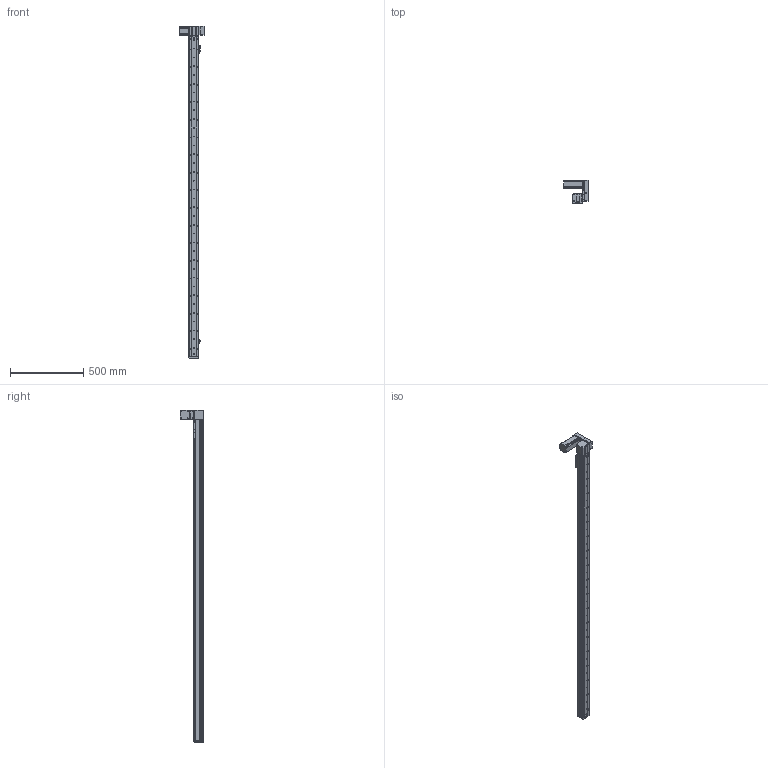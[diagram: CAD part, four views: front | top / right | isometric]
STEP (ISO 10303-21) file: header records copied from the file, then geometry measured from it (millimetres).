
FILE_DESCRIPTION (( 'STEP AP214' ), '1' );
FILE_NAME ('KSD68BS-S2000-MLU-CM.STEP', '2019-10-19T09:35:27', ( '微软用户' ), ( '微软中国' ), 'SwSTEP 2.0', 'SolidWorks 2014', '' );
FILE_SCHEMA (( 'AUTOMOTIVE_DESIGN' ));
Length unit declared in the file: millimetre
Products named in the file (11): 68单导轨同步带半封闭端板; KSD68BS 2000俴最裔啣圉猾敕; 覜茼え68遵圉猾敕; KSD68BS半封闭同步带传动导轨座; U倰嫖萇EEㄜSX672; 台达ECMA－C20604AS伺服电机（400W); KSD68BS 2000俴最菁啣圉猾敕; KSD68BS-S2000-MLU-CM; 悵誘欶奻狟殏; 68宽马达安装板连板上折同步带; 68宽单导轨半封闭同步带主动轮座左
Assembly tree (12 placements, depth 2):
  KSD68BS-S2000-MLU-CM
    KSD68BS 2000俴最菁啣圉猾敕
    台达ECMA－C20604AS伺服电机（400W)
    U倰嫖萇EEㄜSX672  x3
    KSD68BS半封闭同步带传动导轨座
    覜茼え68遵圉猾敕
    KSD68BS 2000俴最裔啣圉猾敕
    68单导轨同步带半封闭端板
    68宽单导轨半封闭同步带主动轮座左
    68宽马达安装板连板上折同步带
    悵誘欶奻狟殏
Bounding box: 167.2 x 159.5 x 2262 mm (x, y, z)
Volume: 3631787.4 mm3; surface area: 1376128.2 mm2
Topology: 13 solids, 13 shells, 1710 faces, 5052 edges, 3296 vertices
Faces by surface type: cylinder 922, plane 705, cone 83
Entity records: 68414 total; most frequent: CARTESIAN_POINT 14082, ORIENTED_EDGE 8856, DIRECTION 8484, EDGE_CURVE 4428, AXIS2_PLACEMENT_3D 3066, VERTEX_POINT 2920, LINE 2352, VECTOR 2352
